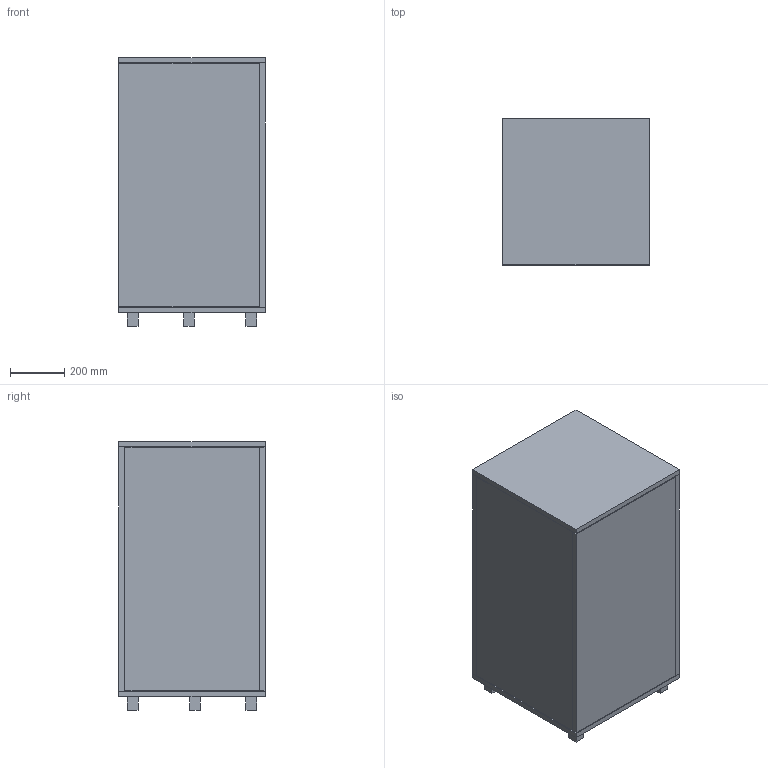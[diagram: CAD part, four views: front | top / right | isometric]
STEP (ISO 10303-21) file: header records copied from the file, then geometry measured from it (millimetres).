
FILE_DESCRIPTION(/* description */ ('STEP AP242','CAx-IF Rec.Pracs.---Representation and Presentation of Product Manufacturing Information (PMI)---4.0---2014-10-13','CAx-IF Rec.Pracs.---3D Tessellated Geometry---0.4---2014-09-14','2;1'),/* implementation_level */ '2;1');
FILE_NAME(/* name */ '9349301+9360943+9360733++(FurnSpin CAD configurator)',/* time_stamp */ '2026-03-16T09:30:32+01:00',/* author */ ('License CC BY-ND 4.0'),/* organization */ ('CADENAS'),/* preprocessor_version */ 'ST-DEVELOPER v20',/* originating_system */ 'PARTsolutions',/* authorisation */ ' ');
FILE_SCHEMA (('AP242_MANAGED_MODEL_BASED_3D_ENGINEERING_MIM_LF { 1 0 10303 442 1 1 4 }'));
Length unit declared in the file: millimetre
Products named in the file (26): 9349301+9360943+9360733++(FurnSpin CAD configurator); 9349301+9360943+9360733++(1_0_0_19_19_518_518_0_0_537_537_19_900_0__0
_0_0_3_19_19_19_25_0_19_0_19_3_3_7_7_0_40_50)_dummy; fix_furniture_side_panel(1_0_19_19_518_518_0_0_900_0__0_0_19_3); fix_furniture_bottom_panel(1_0_19_19_518_518_0_0_19_3_3); fix_furniture_top_panel(1_0_19_19_518_518_0_0_19_3_3); fix_furniture_back_panel(1_0_19_19_518_900_3); spin_furniture_front_panel(1_0_518_0_900_0_0_3_19_3_3); spin_furniture_side_panel(1_0_518_0_900_0__0_19_19_3); spin_furniture_top_panel(1_0_518_518_0_0_0__0_19_19_19_3_3_7_7); 9352251; 9352263; 9352259; spin_furniture_bottom_panel(1_0_518_518_0_0_0__0_19_19_25_3_3_7_7); 9352253; 9352281_Cover profile(885.6_900_0_3); 9360710_Glass corner profile(768_1_900_19_25_19_3_0); 9352269_Back fitting cover(469.5_518_518_0_0_19_19_3_3_7_7); 9352255_matt black; 9352257_matt black; 9352269_Side fitting cover(469.5_518_518_0_0_19_19_3_3_7_7); ARTICLENO._12; furnspin_cpl_bottom_m_1; activator_m_1; ARTICLENO._11; furnspin_cpl_top_m_1; Dummy Leg(40_50_0)
Assembly tree (48 placements, depth 2):
  9349301+9360943+9360733++(FurnSpin CAD configurator)
    9349301+9360943+9360733++(1_0_0_19_19_518_518_0_0_537_537_19_900_0__0
_0_0_3_19_19_19_25_0_19_0_19_3_3_7_7_0_40_50)_dummy
    fix_furniture_side_panel(1_0_19_19_518_518_0_0_900_0__0_0_19_3)
    fix_furniture_bottom_panel(1_0_19_19_518_518_0_0_19_3_3)
    fix_furniture_top_panel(1_0_19_19_518_518_0_0_19_3_3)
    fix_furniture_back_panel(1_0_19_19_518_900_3)
    spin_furniture_front_panel(1_0_518_0_900_0_0_3_19_3_3)
    spin_furniture_side_panel(1_0_518_0_900_0__0_19_19_3)
    spin_furniture_top_panel(1_0_518_518_0_0_0__0_19_19_19_3_3_7_7)
    9352251  x2
    9352263  x10
    9352259  x2
    spin_furniture_bottom_panel(1_0_518_518_0_0_0__0_19_19_25_3_3_7_7)
    9352253  x4
    9352281_Cover profile(885.6_900_0_3)
    9360710_Glass corner profile(768_1_900_19_25_19_3_0)
    9352269_Back fitting cover(469.5_518_518_0_0_19_19_3_3_7_7)  x2
    9352255_matt black  x2
    9352257_matt black  x2
    9352269_Side fitting cover(469.5_518_518_0_0_19_19_3_3_7_7)  x2
    ARTICLENO._12
    furnspin_cpl_bottom_m_1
    activator_m_1  x2
    ARTICLENO._11
    furnspin_cpl_top_m_1
    Dummy Leg(40_50_0)  x5
Bounding box: 537 x 537 x 988 mm (x, y, z)
Volume: 60832595.4 mm3; surface area: 7499604.5 mm2
Topology: 47 solids, 47 shells, 1091 faces, 2835 edges, 1893 vertices
Faces by surface type: plane 961, cylinder 130
Full cylindrical faces by diameter (mm): 3 x1, 4.2 x12, 4.4 x6, 4.5 x8, 4.56 x7, 4.58 x2, 5 x17, 8.3 x1, 10 x1, 13 x2, 14 x1, 15 x1, 15.1 x1, 17.8 x1, 18 x1, 19.5 x1, 20 x3, 25 x1, 35 x9, 58 x1, 94.72 x1, 135 x1
Entity records: 19509 total; most frequent: CARTESIAN_POINT 3293, DIRECTION 3119, ORIENTED_EDGE 3086, EDGE_CURVE 1543, LINE 1329, VECTOR 1329, VERTEX_POINT 1068, AXIS2_PLACEMENT_3D 895
